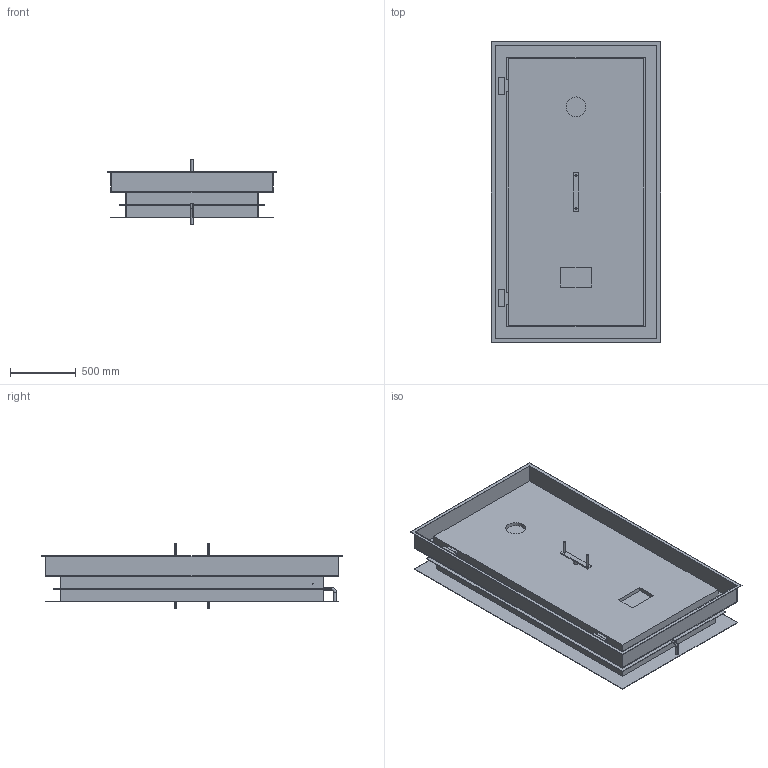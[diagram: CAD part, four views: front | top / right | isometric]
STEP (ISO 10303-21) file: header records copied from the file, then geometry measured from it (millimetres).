
FILE_DESCRIPTION((''),'2;1');
FILE_NAME('51331084','2019-03-15T',('bg'),('HUBER SE'),'PRO/ENGINEER BY PARAMETRIC TECHNOLOGY CORPORATION, 2017170','PRO/ENGINEER BY PARAMETRIC TECHNOLOGY CORPORATION, 2017170','');
FILE_SCHEMA(('AUTOMOTIVE_DESIGN { 1 0 10303 214 1 1 1 1 }'));
Length unit declared in the file: millimetre
Products named in the file (1): 51331084
Bounding box: 1290 x 2290 x 495 mm (x, y, z)
Volume: 214165171 mm3; surface area: 13766647.2 mm2
Topology: 1 solids, 1 shells, 136 faces, 326 edges, 212 vertices
Faces by surface type: plane 106, cylinder 26, torus 4
Entity records: 5048 total; most frequent: CARTESIAN_POINT 685, DIRECTION 671, ORIENTED_EDGE 652, EDGE_CURVE 326, VECTOR 266, LINE 266, VERTEX_POINT 212, AXIS2_PLACEMENT_3D 201
